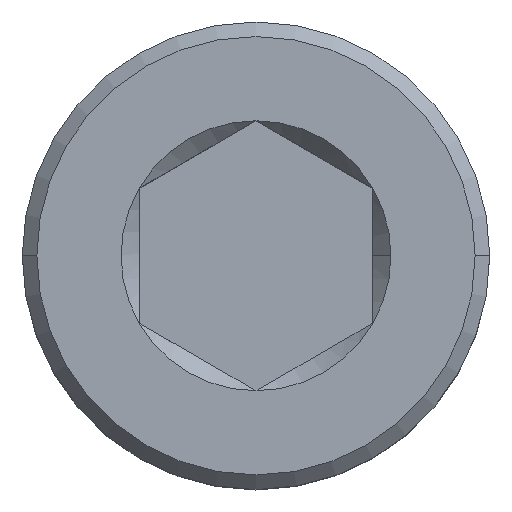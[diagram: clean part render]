
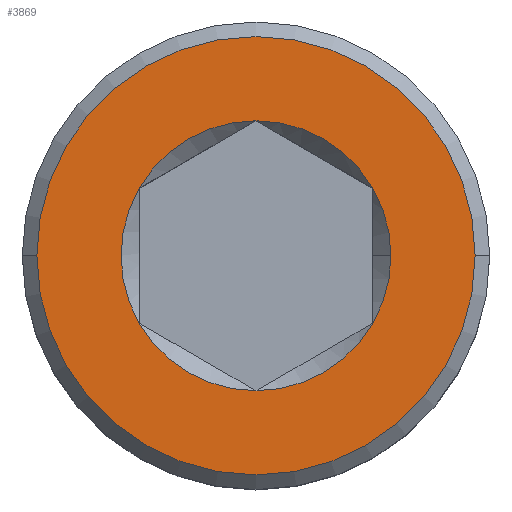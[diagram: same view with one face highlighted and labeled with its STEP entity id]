
A CAD part, top view. The second image highlights one B-rep face of the part: STEP entity #3869.
In plain terms, the highlighted planar face has unit normal (0, 0, 1).
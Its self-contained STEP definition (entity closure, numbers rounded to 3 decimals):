
#54 = CARTESIAN_POINT ( 'NONE',  ( 4., 2.309, 0. ) ) ;
#105 = CARTESIAN_POINT ( 'NONE',  ( 0., 0., 0. ) ) ;
#154 = CIRCLE ( 'NONE', #728, 7.5 ) ;
#183 = VERTEX_POINT ( 'NONE', #1296 ) ;
#216 = CIRCLE ( 'NONE', #1504, 4.619 ) ;
#265 = EDGE_CURVE ( 'NONE', #1177, #1152, #1230, .T. ) ;
#288 = CIRCLE ( 'NONE', #4374, 4.619 ) ;
#294 = CARTESIAN_POINT ( 'NONE',  ( 0., -4.619, 0. ) ) ;
#457 = ORIENTED_EDGE ( 'NONE', *, *, #3622, .F. ) ;
#504 = ORIENTED_EDGE ( 'NONE', *, *, #2624, .F. ) ;
#523 = CIRCLE ( 'NONE', #2721, 4.619 ) ;
#574 = VERTEX_POINT ( 'NONE', #54 ) ;
#662 = CARTESIAN_POINT ( 'NONE',  ( 0., 0., 0. ) ) ;
#721 = CARTESIAN_POINT ( 'NONE',  ( 0., 0., 0. ) ) ;
#728 = AXIS2_PLACEMENT_3D ( 'NONE', #2946, #772, #1503 ) ;
#772 = DIRECTION ( 'NONE',  ( 0., 0., 1. ) ) ;
#789 = CARTESIAN_POINT ( 'NONE',  ( -4., 2.309, 0. ) ) ;
#814 = ORIENTED_EDGE ( 'NONE', *, *, #2222, .F. ) ;
#835 = VERTEX_POINT ( 'NONE', #789 ) ;
#947 = ORIENTED_EDGE ( 'NONE', *, *, #2622, .T. ) ;
#1012 = FACE_OUTER_BOUND ( 'NONE', #2799, .T. ) ;
#1067 = CARTESIAN_POINT ( 'NONE',  ( 0., 0., 0. ) ) ;
#1100 = CARTESIAN_POINT ( 'NONE',  ( 0., 4.619, 0. ) ) ;
#1116 = DIRECTION ( 'NONE',  ( 0., 0., 1. ) ) ;
#1152 = VERTEX_POINT ( 'NONE', #2779 ) ;
#1177 = VERTEX_POINT ( 'NONE', #3233 ) ;
#1230 = CIRCLE ( 'NONE', #3299, 7.5 ) ;
#1296 = CARTESIAN_POINT ( 'NONE',  ( 4., -2.309, 0. ) ) ;
#1301 = AXIS2_PLACEMENT_3D ( 'NONE', #105, #1455, #4292 ) ;
#1423 = ORIENTED_EDGE ( 'NONE', *, *, #265, .T. ) ;
#1455 = DIRECTION ( 'NONE',  ( 0., 0., 1. ) ) ;
#1493 = VERTEX_POINT ( 'NONE', #294 ) ;
#1503 = DIRECTION ( 'NONE',  ( 1., 0., 0. ) ) ;
#1504 = AXIS2_PLACEMENT_3D ( 'NONE', #2465, #3595, #2818 ) ;
#1520 = ORIENTED_EDGE ( 'NONE', *, *, #2953, .F. ) ;
#1627 = CARTESIAN_POINT ( 'NONE',  ( -4., -2.309, 0. ) ) ;
#1737 = DIRECTION ( 'NONE',  ( 1., 0., 0. ) ) ;
#1745 = DIRECTION ( 'NONE',  ( 1., 0., 0. ) ) ;
#1941 = AXIS2_PLACEMENT_3D ( 'NONE', #3368, #3073, #4453 ) ;
#2023 = DIRECTION ( 'NONE',  ( 1., 0., 0. ) ) ;
#2140 = CARTESIAN_POINT ( 'NONE',  ( 4.619, 0., 0. ) ) ;
#2222 = EDGE_CURVE ( 'NONE', #835, #3884, #3143, .T. ) ;
#2379 = EDGE_LOOP ( 'NONE', ( #2962, #504, #457, #4037, #1520, #814, #2649 ) ) ;
#2415 = DIRECTION ( 'NONE',  ( 0., 0., 1. ) ) ;
#2417 = DIRECTION ( 'NONE',  ( 1., 0., 0. ) ) ;
#2465 = CARTESIAN_POINT ( 'NONE',  ( 0., 0., 0. ) ) ;
#2522 = AXIS2_PLACEMENT_3D ( 'NONE', #2787, #3137, #1737 ) ;
#2616 = CIRCLE ( 'NONE', #2918, 4.619 ) ;
#2622 = EDGE_CURVE ( 'NONE', #1152, #1177, #154, .T. ) ;
#2624 = EDGE_CURVE ( 'NONE', #3683, #574, #3302, .T. ) ;
#2649 = ORIENTED_EDGE ( 'NONE', *, *, #3431, .F. ) ;
#2691 = AXIS2_PLACEMENT_3D ( 'NONE', #3463, #4428, #2417 ) ;
#2721 = AXIS2_PLACEMENT_3D ( 'NONE', #3522, #2415, #4524 ) ;
#2779 = CARTESIAN_POINT ( 'NONE',  ( 7.5, 0., 0. ) ) ;
#2787 = CARTESIAN_POINT ( 'NONE',  ( 0., 0., 0. ) ) ;
#2799 = EDGE_LOOP ( 'NONE', ( #1423, #947 ) ) ;
#2818 = DIRECTION ( 'NONE',  ( 1., 0., 0. ) ) ;
#2918 = AXIS2_PLACEMENT_3D ( 'NONE', #662, #3395, #2023 ) ;
#2946 = CARTESIAN_POINT ( 'NONE',  ( 0., 0., 0. ) ) ;
#2953 = EDGE_CURVE ( 'NONE', #3884, #1493, #523, .T. ) ;
#2962 = ORIENTED_EDGE ( 'NONE', *, *, #3591, .F. ) ;
#3073 = DIRECTION ( 'NONE',  ( 0., 0., 1. ) ) ;
#3096 = FACE_BOUND ( 'NONE', #2379, .T. ) ;
#3105 = VERTEX_POINT ( 'NONE', #1100 ) ;
#3137 = DIRECTION ( 'NONE',  ( 0., 0., 1. ) ) ;
#3143 = CIRCLE ( 'NONE', #1941, 4.619 ) ;
#3233 = CARTESIAN_POINT ( 'NONE',  ( -7.5, 0., 0. ) ) ;
#3299 = AXIS2_PLACEMENT_3D ( 'NONE', #1067, #3887, #3864 ) ;
#3302 = CIRCLE ( 'NONE', #1301, 4.619 ) ;
#3368 = CARTESIAN_POINT ( 'NONE',  ( 0., 0., 0. ) ) ;
#3395 = DIRECTION ( 'NONE',  ( 0., 0., 1. ) ) ;
#3431 = EDGE_CURVE ( 'NONE', #3105, #835, #2616, .T. ) ;
#3463 = CARTESIAN_POINT ( 'NONE',  ( 0., 0., 0. ) ) ;
#3522 = CARTESIAN_POINT ( 'NONE',  ( 0., 0., 0. ) ) ;
#3591 = EDGE_CURVE ( 'NONE', #574, #3105, #216, .T. ) ;
#3595 = DIRECTION ( 'NONE',  ( 0., 0., 1. ) ) ;
#3622 = EDGE_CURVE ( 'NONE', #183, #3683, #288, .T. ) ;
#3683 = VERTEX_POINT ( 'NONE', #2140 ) ;
#3855 = CIRCLE ( 'NONE', #2522, 4.619 ) ;
#3864 = DIRECTION ( 'NONE',  ( 1., 0., 0. ) ) ;
#3869 = ADVANCED_FACE ( 'NONE', ( #1012, #3096 ), #4477, .T. ) ;
#3884 = VERTEX_POINT ( 'NONE', #1627 ) ;
#3887 = DIRECTION ( 'NONE',  ( 0., 0., 1. ) ) ;
#4037 = ORIENTED_EDGE ( 'NONE', *, *, #4188, .F. ) ;
#4188 = EDGE_CURVE ( 'NONE', #1493, #183, #3855, .T. ) ;
#4292 = DIRECTION ( 'NONE',  ( 1., 0., 0. ) ) ;
#4374 = AXIS2_PLACEMENT_3D ( 'NONE', #721, #1116, #1745 ) ;
#4428 = DIRECTION ( 'NONE',  ( 0., 0., 1. ) ) ;
#4453 = DIRECTION ( 'NONE',  ( 1., 0., 0. ) ) ;
#4477 = PLANE ( 'NONE',  #2691 ) ;
#4524 = DIRECTION ( 'NONE',  ( 1., 0., 0. ) ) ;
